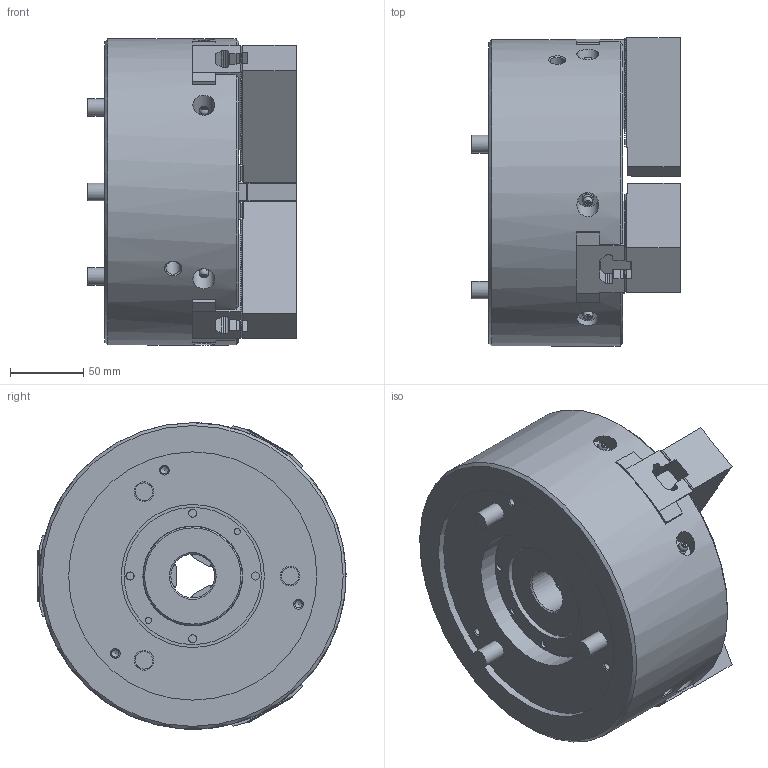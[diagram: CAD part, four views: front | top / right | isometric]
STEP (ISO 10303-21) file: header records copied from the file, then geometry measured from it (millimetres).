
FILE_DESCRIPTION (( 'STEP AP214' ), '1' );
FILE_NAME ('BS308_UC.STEP', '2019-12-20T07:30:31', ( '' ), ( '' ), 'SwSTEP 2.0', 'SolidWorks 2017', '' );
FILE_SCHEMA (( 'AUTOMOTIVE_DESIGN' ));
Length unit declared in the file: millimetre
Products named in the file (18): 61P304291-3_ソフトジョー_W_‡_[_ﾃﾞﾌｫﾙﾄ_ATI≪UA; Part14^61P242456_クミタテ_^_e; 61P304291-3_ソフトジョー_W_‡_[; 61P417260-1_俿僫僢僩_b_g; B傾僫僣僉 M12亊302_~30; Part14^61P242456_僋儈僞僥_^_e_棉太倌I佱UA; BS308_UC; B傾僫僣僉 M12亊302_~30_棉太倌TI佱UA; 61P417260-1_俿僫僢僩_b_g_棉太倌I佱UA
Assembly tree (13 placements, depth 2):
  Part14^61P242456_クミタテ_^_e
  61P304291-3_ソフトジョー_W_‡_[
  61P417260-1_俿僫僢僩_b_g
  61P304291-3_ソフトジョー_W_‡_[
  61P417260-1_俿僫僢僩_b_g
Bounding box: 142.7 x 211.03 x 210 mm (x, y, z)
Volume: 3136857.7 mm3; surface area: 283718.6 mm2
Topology: 13 solids, 38 shells, 3488 faces, 9940 edges, 6592 vertices
Faces by surface type: plane 2455, cylinder 823, cone 153, torus 45, sphere 12
Full cylindrical faces by diameter (mm): 1.5 x6, 1.9 x6, 3 x12, 4.2 x3, 5 x9, 6 x6, 9 x9, 10 x5, 10.2 x6, 12 x9, 13 x6, 13.5 x3, 15 x6, 18 x9, 19 x6, 20 x3, 30 x1, 52 x2, 54 x1, 61 x1, 68 x1, 68.4 x1, 94 x1, 98 x1, 170 x1, 210 x1
Entity records: 74714 total; most frequent: CARTESIAN_POINT 16761, ORIENTED_EDGE 12576, DIRECTION 10832, EDGE_CURVE 6288, VECTOR 4968, LINE 4968, VERTEX_POINT 4240, AXIS2_PLACEMENT_3D 2932
